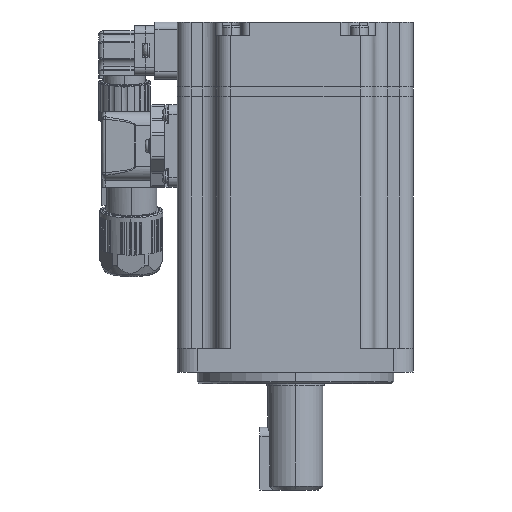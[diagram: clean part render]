
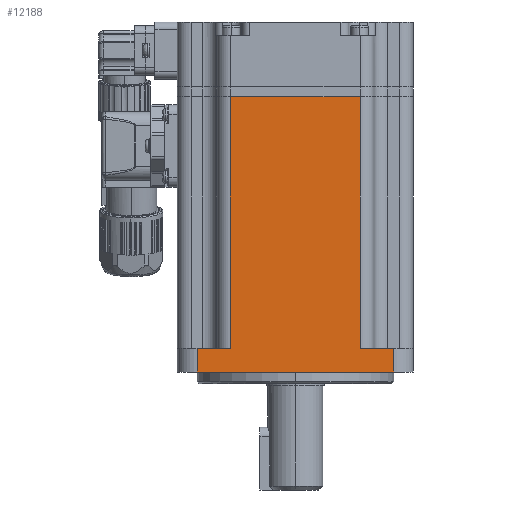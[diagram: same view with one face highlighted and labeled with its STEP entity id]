
A CAD part, left-side view. The second image highlights one B-rep face of the part: STEP entity #12188.
In plain terms, the highlighted planar face has unit normal (-1, 0, 0).
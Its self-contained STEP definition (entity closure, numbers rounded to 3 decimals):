
#2285 = LINE ( 'NONE', #119588, #13554 ) ;
#6139 = LINE ( 'NONE', #20470, #175716 ) ;
#8740 = VECTOR ( 'NONE', #135913, 1000. ) ;
#12188 = ADVANCED_FACE ( 'NONE', ( #47851 ), #44096, .F. ) ;
#12746 = CARTESIAN_POINT ( 'NONE',  ( -30., 12.897, 163.062 ) ) ;
#13554 = VECTOR ( 'NONE', #176756, 1000. ) ;
#17387 = VERTEX_POINT ( 'NONE', #67128 ) ;
#20470 = CARTESIAN_POINT ( 'NONE',  ( -30., -37.103, 163.062 ) ) ;
#27165 = ORIENTED_EDGE ( 'NONE', *, *, #162310, .F. ) ;
#27270 = VERTEX_POINT ( 'NONE', #78909 ) ;
#28048 = LINE ( 'NONE', #12746, #48367 ) ;
#29322 = CARTESIAN_POINT ( 'NONE',  ( -30., -28.603, 99.062 ) ) ;
#30809 = VECTOR ( 'NONE', #145732, 1000. ) ;
#33046 = LINE ( 'NONE', #77815, #8740 ) ;
#44096 = PLANE ( 'NONE',  #94589 ) ;
#46326 = LINE ( 'NONE', #108214, #135463 ) ;
#47851 = FACE_OUTER_BOUND ( 'NONE', #176805, .T. ) ;
#48367 = VECTOR ( 'NONE', #86180, 1000. ) ;
#49378 = CARTESIAN_POINT ( 'NONE',  ( -30., -28.603, 163.062 ) ) ;
#49583 = ORIENTED_EDGE ( 'NONE', *, *, #79340, .T. ) ;
#57808 = ORIENTED_EDGE ( 'NONE', *, *, #179622, .F. ) ;
#58059 = VERTEX_POINT ( 'NONE', #78691 ) ;
#62615 = CARTESIAN_POINT ( 'NONE',  ( -30., 4.397, 163.062 ) ) ;
#63855 = VECTOR ( 'NONE', #112219, 1000. ) ;
#67126 = EDGE_CURVE ( 'NONE', #27270, #180173, #28048, .T. ) ;
#67128 = CARTESIAN_POINT ( 'NONE',  ( -30., 4.397, 99.062 ) ) ;
#68188 = EDGE_CURVE ( 'NONE', #17387, #27270, #82696, .T. ) ;
#77815 = CARTESIAN_POINT ( 'NONE',  ( -30., -28.603, 3.43 ) ) ;
#78691 = CARTESIAN_POINT ( 'NONE',  ( -30., -37.103, 93.062 ) ) ;
#78909 = CARTESIAN_POINT ( 'NONE',  ( -30., 12.897, 99.062 ) ) ;
#79340 = EDGE_CURVE ( 'NONE', #80342, #102097, #33046, .T. ) ;
#80342 = VERTEX_POINT ( 'NONE', #29322 ) ;
#82696 = LINE ( 'NONE', #140787, #63855 ) ;
#84232 = VERTEX_POINT ( 'NONE', #121220 ) ;
#84971 = VERTEX_POINT ( 'NONE', #62615 ) ;
#86180 = DIRECTION ( 'NONE',  ( 0., 0., -1. ) ) ;
#87624 = CARTESIAN_POINT ( 'NONE',  ( -30., 17.897, 99.062 ) ) ;
#88866 = CARTESIAN_POINT ( 'NONE',  ( -30., 17.897, 163.062 ) ) ;
#91585 = CARTESIAN_POINT ( 'NONE',  ( -30., 12.897, 93.062 ) ) ;
#93226 = ORIENTED_EDGE ( 'NONE', *, *, #153819, .T. ) ;
#94589 = AXIS2_PLACEMENT_3D ( 'NONE', #88866, #147901, #103192 ) ;
#98848 = LINE ( 'NONE', #176638, #143864 ) ;
#102097 = VERTEX_POINT ( 'NONE', #49378 ) ;
#103192 = DIRECTION ( 'NONE',  ( 0., 0., -1. ) ) ;
#106924 = ORIENTED_EDGE ( 'NONE', *, *, #67126, .T. ) ;
#108214 = CARTESIAN_POINT ( 'NONE',  ( -30., 17.897, 93.062 ) ) ;
#112219 = DIRECTION ( 'NONE',  ( 0., 1., 0. ) ) ;
#113168 = ORIENTED_EDGE ( 'NONE', *, *, #68188, .T. ) ;
#117597 = DIRECTION ( 'NONE',  ( 0., -1., 0. ) ) ;
#119588 = CARTESIAN_POINT ( 'NONE',  ( -30., 4.397, 3.43 ) ) ;
#120003 = LINE ( 'NONE', #87624, #30809 ) ;
#121220 = CARTESIAN_POINT ( 'NONE',  ( -30., -37.103, 99.062 ) ) ;
#135463 = VECTOR ( 'NONE', #165396, 1000. ) ;
#135913 = DIRECTION ( 'NONE',  ( 0., 0., 1. ) ) ;
#140787 = CARTESIAN_POINT ( 'NONE',  ( -30., 17.897, 99.062 ) ) ;
#143864 = VECTOR ( 'NONE', #117597, 1000. ) ;
#144489 = EDGE_CURVE ( 'NONE', #58059, #84232, #6139, .T. ) ;
#145732 = DIRECTION ( 'NONE',  ( 0., 1., 0. ) ) ;
#147901 = DIRECTION ( 'NONE',  ( 1., 0., 0. ) ) ;
#150093 = DIRECTION ( 'NONE',  ( 0., 0., 1. ) ) ;
#151866 = ORIENTED_EDGE ( 'NONE', *, *, #163873, .F. ) ;
#153819 = EDGE_CURVE ( 'NONE', #84232, #80342, #120003, .T. ) ;
#162310 = EDGE_CURVE ( 'NONE', #17387, #84971, #2285, .T. ) ;
#163873 = EDGE_CURVE ( 'NONE', #58059, #180173, #46326, .T. ) ;
#165396 = DIRECTION ( 'NONE',  ( 0., 1., 0. ) ) ;
#175716 = VECTOR ( 'NONE', #150093, 1000. ) ;
#176638 = CARTESIAN_POINT ( 'NONE',  ( -30., 17.897, 163.062 ) ) ;
#176756 = DIRECTION ( 'NONE',  ( 0., 0., 1. ) ) ;
#176805 = EDGE_LOOP ( 'NONE', ( #151866, #181827, #93226, #49583, #57808, #27165, #113168, #106924 ) ) ;
#179622 = EDGE_CURVE ( 'NONE', #84971, #102097, #98848, .T. ) ;
#180173 = VERTEX_POINT ( 'NONE', #91585 ) ;
#181827 = ORIENTED_EDGE ( 'NONE', *, *, #144489, .T. ) ;
